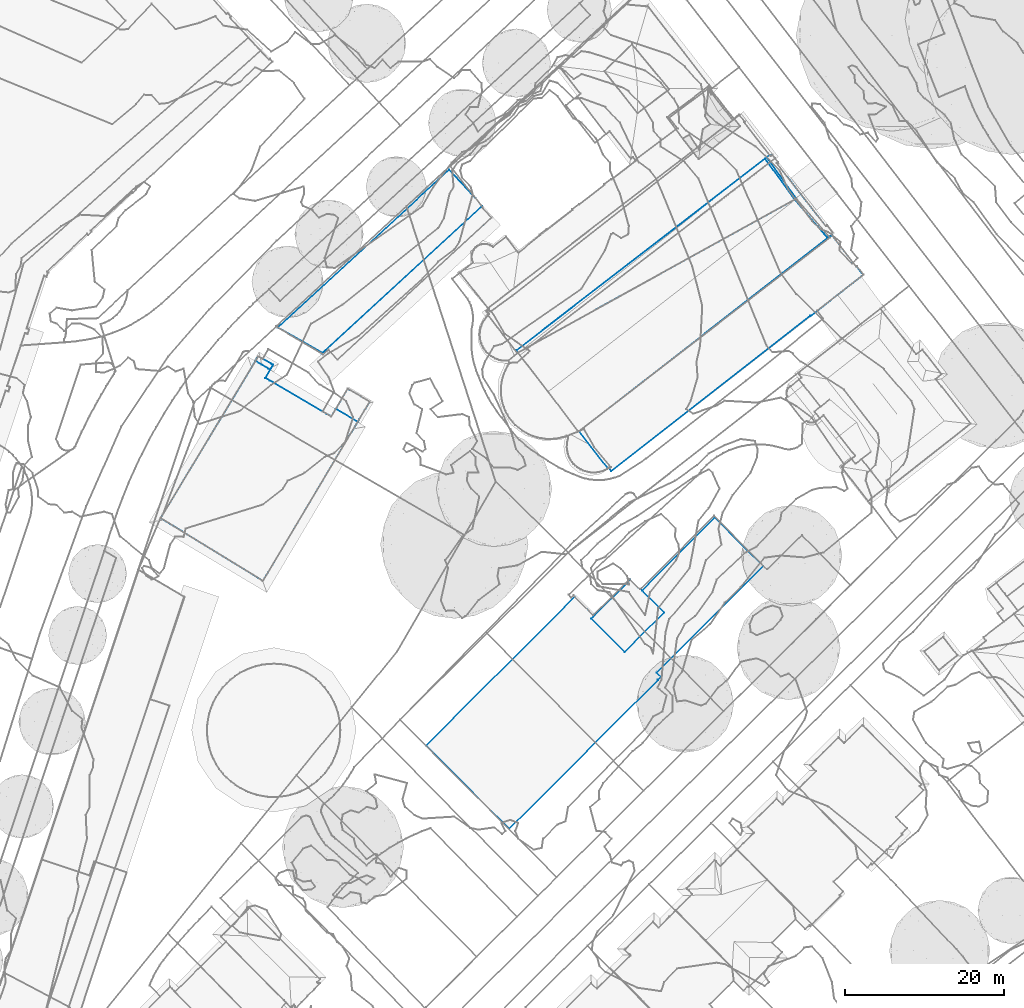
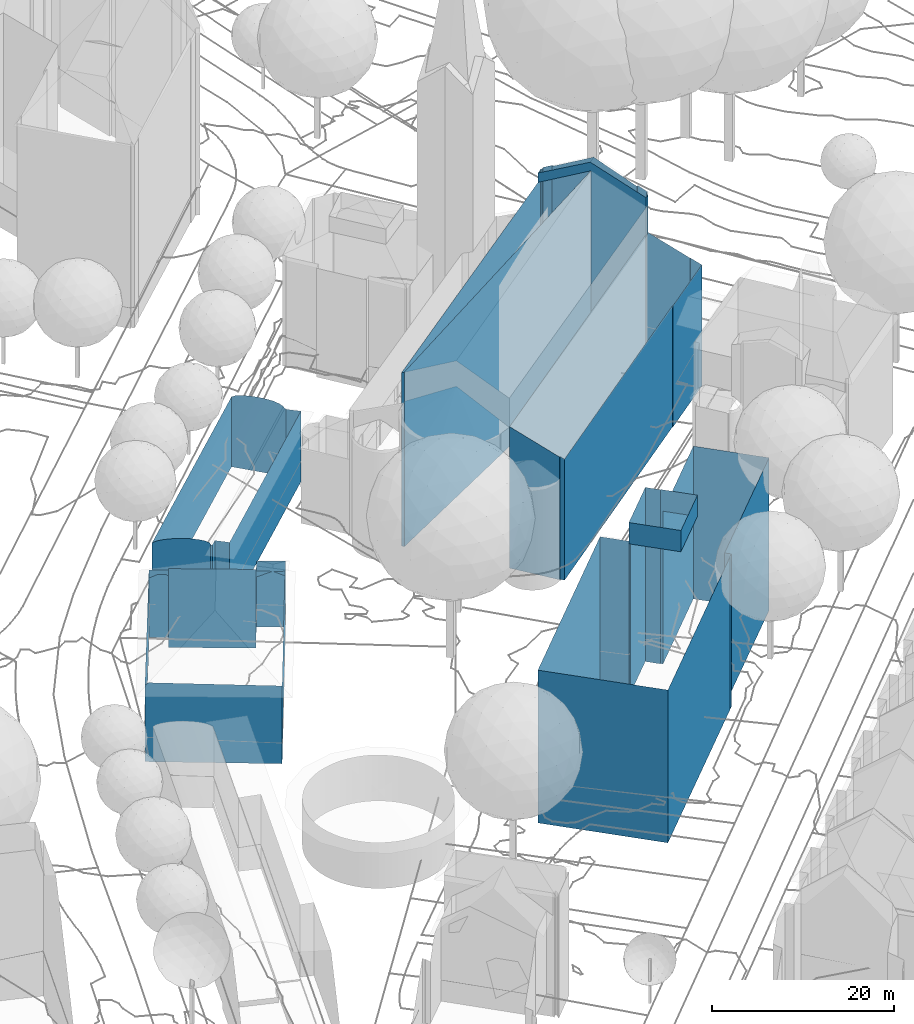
# Not in any storey, part 28 of 477: 4 walls.
"""IFC4 building model written with IfcOpenShell, lengths in metres."""

from ifc_helpers import new_model, si_unit, frame, origin_with_axes, place, context, subcontext, project, spatial, polygons, element, save


model = new_model("IFC4")

# Units and contexts
model_context = context("Model", 3, precision=1e-05, world=origin_with_axes())
body_context = subcontext(model_context, "Body", "Model", "MODEL_VIEW")
ifc_project = project(units=[si_unit("AREAUNIT", "SQUARE_METRE"), si_unit("LENGTHUNIT", "METRE")], contexts=[model_context])

# Sites, building
site_1_placement = place(None, origin_with_axes())
site_1 = spatial("IfcSite", under=ifc_project, at=site_1_placement, Name="Topoexport Site")
site_2_placement = place(site_1_placement, origin_with_axes())
site_2 = spatial("IfcSite", under=site_1, at=site_2_placement, Name="TPX_BUILDINGS")
building_1_placement = place(site_2_placement, frame((129.1307320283, 172.8855160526, 527.2133), z_axis=(0.0, 0.0, 1.0), x_axis=(1.0, 0.0, 0.0)))
building_1 = spatial("IfcBuilding", under=site_2, at=building_1_placement, Name="Building 41", CompositionType="ELEMENT")

# Wall
wall_1_placement = place(None, frame((129.1307320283, 172.8855160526, 527.2133), z_axis=(0.0, 0.0, 1.0), x_axis=(1.0, 0.0, 0.0)))
element("IfcWall", 1, at=wall_1_placement, inside=building_1, Name="Wall 0", context=body_context, shape_type="Tessellation", body=[
    polygons([(26.9079999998, 19.6407000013, 0.0), (26.9489999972, 19.6816999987, 23.3617), (26.9079999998, 19.6407000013, 23.3617), (25.682, 20.875, 0.0), (25.682, 20.875, 23.3617), (20.7619999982, 15.9501999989, 20.498), (21.2709999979, 16.4589999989, 20.498), (20.7619999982, 15.9501999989, 23.3617), (21.2709999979, 16.4589999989, 0.0), (24.9499999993, 11.7657000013, 20.498), (24.9499999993, 11.7657000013, 23.3617), (29.9069999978, 16.7265999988, 20.498), (29.9069999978, 16.7265999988, 23.3617), (27.1359999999, 19.4952000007, 0.0), (27.1359999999, 19.4952000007, 20.498), (26.9489999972, 19.6816999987, 0.0), (21.0179999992, 16.3916999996, 0.0), (21.1789999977, 16.5507999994, 20.498), (21.0179999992, 16.3916999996, 20.498), (18.7049999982, 18.7236999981, 0.0), (18.7049999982, 18.7236999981, 20.498), (0.0, 0.0, 0.0), (0.0, 0.0, 20.498), (10.4670000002, -10.4569999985, 0.0), (10.4670000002, -10.4569999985, 20.498), (29.1589999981, 8.2520000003, 0.0), (29.1589999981, 8.2520000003, 20.498), (29.1419999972, 8.2696000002, 0.0), (29.1419999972, 8.2696000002, 20.498), (29.5369999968, 8.6513999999, 0.0), (29.5369999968, 8.6513999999, 20.498), (29.0059999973, 9.183600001, 0.0), (29.0059999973, 9.183600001, 20.498), (42.3549999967, 22.5430000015, 0.0), (42.3549999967, 22.5430000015, 20.498), (36.2619999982, 28.6290000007, 0.0), (36.2619999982, 28.6290000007, 20.498), (21.1789999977, 16.5507999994, 0.0)], [[[3, 2, 1]], [[5, 3, 4]], [[8, 7, 6]], [[7, 8, 5]], [[7, 4, 9]], [[4, 7, 5]], [[11, 8, 10]], [[13, 11, 12]], [[16, 15, 14]], [[15, 16, 2]], [[15, 13, 12]], [[13, 15, 2]], [[19, 18, 17]], [[21, 19, 20]], [[23, 21, 22]], [[25, 23, 24]], [[27, 25, 26]], [[29, 27, 28]], [[31, 29, 30]], [[33, 31, 32]], [[35, 33, 34]], [[37, 35, 36]], [[15, 37, 14]], [[18, 7, 38]], [[2, 16, 1]], [[3, 1, 4]], [[8, 6, 10]], [[11, 10, 12]], [[18, 38, 17]], [[19, 17, 20]], [[21, 20, 22]], [[23, 22, 24]], [[25, 24, 26]], [[27, 26, 28]], [[29, 28, 30]], [[31, 30, 32]], [[33, 32, 34]], [[35, 34, 36]], [[37, 36, 14]], [[7, 9, 38]]]),
])

# Building
building_2_placement = place(site_2_placement, frame((95.7557320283, 201.4705160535, 529.7781), z_axis=(0.0, 0.0, 1.0), x_axis=(1.0, 0.0, 0.0)))
building_2 = spatial("IfcBuilding", under=site_2, at=building_2_placement, Name="Building 138", CompositionType="ELEMENT")

# Wall
wall_2_placement = place(None, frame((95.7557320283, 201.4705160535, 529.7781), z_axis=(0.0, 0.0, 1.0), x_axis=(1.0, 0.0, 0.0)))
element("IfcWall", 2, at=wall_2_placement, inside=building_2, Name="Wall 0", context=body_context, shape_type="Tessellation", body=[
    polygons([(0.0, 0.0, 7.7173), (0.175999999, 0.2763999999, 4.8265), (0.0, 0.0, 10.294), (0.2969999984, 0.4638999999, 7.7303), (0.2969999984, 0.4638999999, 10.308), (0.0, 0.0, 5.1405), (0.0, 0.0, 0.0), (0.2969999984, 0.4638999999, 5.1535), (0.2969999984, 0.4638999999, 2.5767), (0.3019999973, 0.4726999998, 0.0), (22.0429999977, 13.7372999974, 8.7192), (23.6169999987, 12.7978999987, 9.5141), (22.0429999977, 13.7372999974, 9.5431), (24.7869999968, 12.1006000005, 8.9061), (24.7869999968, 12.1006000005, 9.5361), (23.7709999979, 16.1142999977, 0.0), (23.5359999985, 16.2520000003, 8.7192), (23.5359999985, 16.2520000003, 0.0), (23.7709999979, 16.1142999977, 8.8341), (26.2989999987, 14.6358000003, 0.0), (26.2989999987, 14.6358000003, 8.8231), (21.4659999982, 12.7588, 0.0), (21.4659999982, 12.7588, 10.535), (22.0429999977, 13.7372999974, 0.0), (12.8699999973, -7.8887000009, 0.0), (12.8409999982, -7.871100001, 10.446), (12.8699999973, -7.8887000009, 10.421), (0.3530000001, -0.2158000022, 0.0), (0.3530000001, -0.2158000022, 10.61), (0.4119999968, 0.6543000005, 10.308), (11.9439999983, 19.7558999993, 8.4852), (11.443, 18.9247999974, 0.0), (11.443, 18.9247999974, 10.4), (11.9439999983, 19.7558999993, 9.5431), (12.2919999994, 20.3330000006, 0.0), (12.2919999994, 20.3330000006, 8.4872), (12.5199999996, 20.2040999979, 8.6212), (14.0029999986, 19.3642999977, 8.6032), (14.0029999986, 19.3642999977, 0.0), (14.1559999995, 19.2773999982, 8.6012), (14.1559999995, 19.2773999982, 0.0), (12.7229999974, 19.2909999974, 8.9522), (12.7229999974, 19.2909999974, 9.5431), (13.561999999, 18.7929999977, 8.9521), (13.7899999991, 18.6562999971, 9.5431), (13.561999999, 18.7929999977, 9.5431), (13.7899999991, 18.6562999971, 8.7602), (13.9899999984, 18.995099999, 0.0), (13.7899999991, 18.6562999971, 0.0), (13.6099999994, 18.3506000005, 0.0), (13.186999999, 17.6308999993, 0.0), (13.6099999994, 18.3506000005, 9.8571), (13.186999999, 17.6308999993, 10.593), (13.9899999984, 18.995099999, 8.7612), (13.7209999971, 17.3173999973, 10.59), (13.7209999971, 17.3173999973, 0.0), (14.305999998, 16.9726999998, 10.586), (14.305999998, 16.9726999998, 0.0), (20.8969999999, 13.0937999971, 0.0), (20.8969999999, 13.0937999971, 10.548), (24.9539999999, 12.3808999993, 8.9031), (26.2039999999, 14.4775999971, 8.9031), (24.9539999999, 12.3808999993, 0.0), (24.6569999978, 11.8817999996, 0.0), (13.5079999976, -6.817400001, 10.42), (24.2789999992, 11.2480999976, 10.418), (24.5839999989, 11.7588, 9.893), (13.5079999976, -6.817400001, 0.0), (24.2789999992, 11.2480999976, 0.0)], [[[3, 2, 1]], [[5, 4, 2]], [[6, 1, 2]], [[7, 6, 2]], [[4, 8, 2]], [[9, 2, 8]], [[2, 10, 7]], [[13, 12, 11]], [[12, 15, 14]], [[18, 17, 16]], [[16, 17, 19]], [[16, 21, 20]], [[21, 16, 19]], [[23, 11, 22]], [[11, 23, 13]], [[18, 24, 17]], [[27, 26, 25]], [[28, 25, 6]], [[25, 26, 6]], [[29, 3, 1]], [[7, 28, 6]], [[6, 26, 1]], [[26, 29, 1]], [[4, 5, 30]], [[8, 4, 31]], [[9, 32, 10]], [[8, 32, 9]], [[33, 4, 30]], [[33, 34, 31]], [[31, 32, 8]], [[32, 31, 35]], [[31, 36, 35]], [[31, 4, 33]], [[36, 37, 35]], [[37, 38, 35]], [[38, 40, 39]], [[41, 39, 40]], [[38, 39, 35]], [[34, 43, 42]], [[42, 31, 34]], [[43, 44, 42]], [[46, 45, 44]], [[47, 44, 45]], [[46, 44, 43]], [[49, 48, 40]], [[49, 40, 50]], [[51, 50, 47]], [[41, 40, 48]], [[47, 45, 52]], [[47, 52, 53]], [[40, 54, 47]], [[40, 47, 50]], [[53, 51, 47]], [[53, 55, 51]], [[55, 56, 51]], [[56, 55, 57]], [[56, 57, 58]], [[60, 23, 59]], [[59, 58, 60]], [[22, 59, 23]], [[60, 58, 57]], [[21, 62, 61]], [[21, 61, 63]], [[64, 61, 14]], [[64, 63, 61]], [[21, 63, 20]], [[66, 65, 14]], [[14, 67, 66]], [[68, 65, 27]], [[67, 14, 15]], [[14, 69, 64]], [[68, 69, 14]], [[65, 68, 14]], [[27, 25, 68]], [[5, 2, 3]], [[10, 2, 9]], [[11, 24, 22]], [[24, 11, 17]]]),
])

# Building
building_3_placement = place(site_2_placement, frame((140.4987320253, 222.5740160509, 530.262), z_axis=(0.0, 0.0, 1.0), x_axis=(1.0, 0.0, 0.0)))
building_3 = spatial("IfcBuilding", under=site_2, at=building_3_placement, Name="Building 152", CompositionType="ELEMENT")

# Wall
wall_3_placement = place(None, frame((140.4987320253, 222.5740160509, 530.262), z_axis=(0.0, 0.0, 1.0), x_axis=(1.0, 0.0, 0.0)))
element("IfcWall", 3, at=wall_3_placement, inside=building_3, Name="Wall 0", context=body_context, shape_type="Tessellation", body=[
    polygons([(39.126000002, 14.129900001, 19.4152), (39.1830000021, 14.0625, 24.4677), (39.1830000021, 14.0625, 19.3782), (34.995000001, 18.9590000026, 3.8747), (39.126000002, 14.129900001, 3.8746), (34.995000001, 18.9590000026, 26.5825), (34.9480000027, 19.0127000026, 27.7214), (34.9480000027, 19.0127000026, 26.5445), (39.5310000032, 14.629900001, 24.6017), (39.768000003, 14.813500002, 24.6097), (39.5310000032, 14.629900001, 19.4182), (39.5310000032, 14.629900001, 14.2337), (39.768000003, 14.813500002, 3.8746), (39.5310000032, 14.629900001, 3.8746), (39.5310000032, 14.629900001, 9.0501), (39.0520000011, 15.7217000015, 3.8746), (39.0520000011, 15.7217000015, 25.1856), (38.8949999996, 15.5996000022, 19.8521), (38.8949999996, 15.5996000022, 25.1796), (39.6560000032, 14.4688000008, 19.3912), (39.6560000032, 14.4688000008, 24.4997), (32.1350000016, 24.5498000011, 24.6187), (31.9360000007, 24.3955000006, 24.6087), (31.9360000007, 24.3955000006, 3.8747), (32.1730000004, 24.5800999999, 3.8747), (31.819000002, 24.5469000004, 14.1427), (31.819000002, 24.5469000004, 19.3262), (31.819000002, 24.5469000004, 24.5097), (31.819000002, 24.5469000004, 3.8747), (31.2490000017, 24.0987000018, 24.4827), (32.7230000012, 23.5371000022, 25.2116), (32.8729999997, 23.5479000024, 25.2566), (32.7230000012, 23.5371000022, 19.8661), (32.7230000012, 23.5371000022, 3.8747), (32.8729999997, 23.5479000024, 3.8747), (32.8890000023, 23.6660000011, 25.2156), (32.8889000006, 23.6661000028, 3.8747), (32.1730000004, 24.5800999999, 24.6207), (11.6030000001, -14.7704999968, 0.429), (11.4979999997, -14.8368999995, 0.429), (11.6030000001, -14.7704999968, 16.9034), (11.9299999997, -15.186499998, 16.6794), (11.9299999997, -15.186499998, 0.429), (36.9150000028, 4.3360000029, 0.429), (36.947800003, 4.2939999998, 16.6914), (36.947900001, 4.2941000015, 0.429), (36.9148000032, 4.3360000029, 16.7134), (41.0219999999, 7.4766000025, 16.6964), (41.5160000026, 7.8623000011, 6.5274), (43.5930000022, 9.4844000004, 0.429), (43.5930000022, 9.4844000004, 16.6994), (39.4400000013, 6.2402999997, 0.429), (42.7580000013, 10.558600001, 0.429), (42.7580000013, 10.558600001, 17.2764), (42.7200000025, 10.5293000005, 8.8522), (42.7200000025, 10.5293000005, 0.429), (7.8670000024, -10.1659999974, 0.429), (11.4979999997, -14.8368999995, 16.9084), (7.8670000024, -10.1659999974, 19.4152), (39.6210000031, 14.514700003, 0.429), (39.6210000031, 14.514700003, 3.8746), (0.2019999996, -0.2938999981, 0.0), (0.0, 0.0, 23.2138), (0.2019999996, -0.2938999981, 23.4248), (35.2050000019, 19.0742000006, 3.8747), (31.4519999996, 24.2569000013, 3.8747), (31.4519999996, 24.2569000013, 0.0), (35.2050000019, 19.0742000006, 0.0), (42.7200000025, 10.5293000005, 17.2764), (35.7479999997, 19.6465000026, 27.7354), (36.8370000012, 18.2471000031, 26.8474), (38.8949999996, 15.5996000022, 14.5246), (35.7479999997, 19.6465000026, 3.8747), (36.8370000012, 18.2471000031, 3.8746), (38.8949999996, 15.5996000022, 3.8746), (0.0, 0.0, 0.0), (31.2479999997, 24.0996000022, 23.2138)], [[[3, 2, 1]], [[5, 1, 4]], [[2, 6, 1]], [[7, 6, 2]], [[8, 6, 7]], [[6, 4, 1]], [[11, 10, 9]], [[12, 10, 11]], [[10, 12, 13]], [[15, 14, 13]], [[17, 10, 16]], [[19, 16, 18]], [[19, 17, 16]], [[21, 2, 20]], [[24, 23, 22]], [[22, 25, 24]], [[27, 23, 26]], [[28, 23, 27]], [[29, 26, 24]], [[7, 30, 8]], [[33, 32, 31]], [[34, 32, 33]], [[35, 32, 34]], [[37, 36, 32]], [[32, 35, 37]], [[36, 37, 38]], [[38, 37, 25]], [[38, 25, 22]], [[41, 40, 39]], [[43, 42, 41]], [[39, 43, 41]], [[43, 44, 42]], [[44, 46, 45]], [[47, 44, 45]], [[49, 48, 46]], [[51, 48, 50]], [[49, 50, 48]], [[52, 50, 49]], [[45, 46, 48]], [[52, 49, 46]], [[54, 50, 53]], [[56, 55, 54]], [[58, 57, 40]], [[57, 58, 59]], [[57, 59, 5]], [[5, 59, 1]], [[5, 61, 60]], [[5, 60, 57]], [[64, 63, 62]], [[67, 66, 65]], [[65, 68, 67]], [[65, 4, 68]], [[68, 4, 62]], [[64, 62, 4]], [[64, 4, 6]], [[11, 9, 21]], [[11, 21, 20]], [[12, 11, 20]], [[55, 15, 12]], [[12, 20, 69]], [[61, 15, 55]], [[55, 12, 69]], [[14, 15, 61]], [[56, 60, 61]], [[61, 55, 56]], [[33, 31, 70]], [[33, 70, 71]], [[18, 34, 33]], [[18, 33, 71]], [[73, 34, 72]], [[72, 34, 18]], [[74, 73, 72]], [[75, 74, 72]], [[18, 71, 19]], [[26, 76, 63]], [[76, 66, 67]], [[26, 66, 76]], [[63, 77, 27]], [[28, 27, 77]], [[29, 66, 26]], [[26, 63, 27]], [[30, 28, 77]], [[12, 15, 13]], [[10, 13, 16]], [[72, 18, 16]], [[16, 75, 72]], [[2, 3, 20]], [[23, 24, 26]], [[30, 77, 8]], [[41, 58, 40]], [[47, 42, 44]], [[51, 50, 54]], [[55, 69, 54]], [[53, 56, 54]], [[63, 76, 62]]]),
])

# Building
building_4_placement = place(site_2_placement, frame((110.5127320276, 225.4217160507, 530.0601), z_axis=(0.0, 0.0, 1.0), x_axis=(1.0, 0.0, 0.0)))
building_4 = spatial("IfcBuilding", under=site_2, at=building_4_placement, Name="Building 153", CompositionType="ELEMENT")

# Wall
wall_4_placement = place(None, frame((110.5127320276, 225.4217160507, 530.0601), z_axis=(0.0, 0.0, 1.0), x_axis=(1.0, 0.0, 0.0)))
element("IfcWall", 4, at=wall_4_placement, inside=building_4, Name="Wall 0", context=body_context, shape_type="Tessellation", body=[
    polygons([(25.7089999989, 15.0879000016, -0.216), (26.8609999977, 13.8369000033, -0.216), (25.7089999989, 15.0879000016, 9.1591), (25.7599999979, 15.134800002, -0.216), (25.7599999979, 15.1347000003, 2.1278), (25.7599999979, 15.134800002, 6.8153), (25.7599999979, 15.1347000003, 9.1591), (5.5109999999, -3.2821999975, 9.1491), (5.6799999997, -3.3818999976, -0.216), (5.5109999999, -3.2821999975, -0.216), (6.3570000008, -2.7588, -0.216), (5.6799999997, -3.3818999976, 9.1591), (6.3570000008, -2.7588, 9.1591), (7.5089999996, -4.0088, -0.216), (7.5089999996, -4.0088, 9.2531), (26.8609999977, 13.8369000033, 9.2531), (0.0, 0.0, 0.0), (21.5419999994, 19.8662, 9.4051), (0.0, 0.0, 9.4051), (5.5940000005, -3.2050999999, 9.1491), (5.5940000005, -3.2050999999, 0.0), (25.6429999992, 15.2842000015, -0.216), (25.6429999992, 15.2842000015, 0.0), (24.8350000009, 16.3047000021, 9.818), (21.5419999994, 19.8662, 0.0), (21.8460000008, 19.5371000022, 0.0), (22.318, 19.0254000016, 0.0), (22.9140000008, 18.3789000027, 0.0), (24.2339999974, 16.947300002, 0.0), (23.574000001, 17.6631000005, 9.976), (22.9140000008, 18.3789000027, 9.936), (22.318, 19.0254000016, 9.818), (24.2339999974, 16.9472000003, 9.936), (24.8350000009, 16.3047000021, 0.0), (21.8460000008, 19.5371000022, 9.6351), (25.2689999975, 15.7568000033, 0.0), (25.2689999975, 15.7568000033, 9.6351), (25.6429999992, 15.2842000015, 9.1491), (25.5469999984, 15.4053000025, 9.4051), (1.0419999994, -0.5966999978, 9.818), (5.1099999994, -2.9277999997, 0.0), (4.4129999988, -2.5282999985, 0.0), (0.4079999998, -0.2333999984, 9.6351), (3.612999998, -2.0702999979, 0.0), (2.7280000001, -1.561499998, 0.0), (0.4079999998, -0.2333999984, 0.0), (1.1050000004, -0.6327999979, 0.0), (5.0469999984, -2.8915999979, 9.6351), (5.4539999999, -3.125, 9.4051), (4.4129999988, -2.5282999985, 9.818), (3.612999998, -2.0702999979, 9.936), (2.7280000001, -1.561499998, 9.976), (1.8420000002, -1.0546999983, 9.936)], [[[3, 2, 1]], [[5, 3, 4]], [[7, 3, 6]], [[3, 5, 6]], [[4, 3, 1]], [[10, 9, 8]], [[13, 12, 11]], [[11, 12, 9]], [[15, 11, 14]], [[14, 2, 16]], [[14, 16, 15]], [[19, 18, 17]], [[21, 10, 20]], [[21, 22, 10]], [[22, 21, 23]], [[26, 25, 24]], [[27, 26, 24]], [[28, 27, 24]], [[28, 24, 29]], [[30, 25, 18]], [[32, 31, 18]], [[31, 30, 18]], [[24, 25, 33]], [[25, 30, 33]], [[24, 34, 29]], [[32, 18, 35]], [[5, 36, 34]], [[24, 5, 34]], [[23, 36, 5]], [[22, 23, 4]], [[37, 6, 24]], [[38, 7, 6]], [[39, 38, 6]], [[4, 23, 5]], [[6, 5, 24]], [[39, 6, 37]], [[41, 21, 40]], [[41, 43, 42]], [[44, 42, 19]], [[44, 19, 45]], [[46, 19, 17]], [[19, 46, 47]], [[47, 45, 19]], [[20, 49, 48]], [[51, 21, 50]], [[50, 20, 48]], [[51, 52, 21]], [[21, 53, 40]], [[43, 19, 42]], [[41, 40, 43]], [[21, 52, 53]], [[50, 21, 20]], [[16, 2, 3]], [[8, 9, 12]], [[13, 11, 15]], [[18, 25, 17]], [[10, 8, 20]]]),
])

save(model, "model.ifc")
